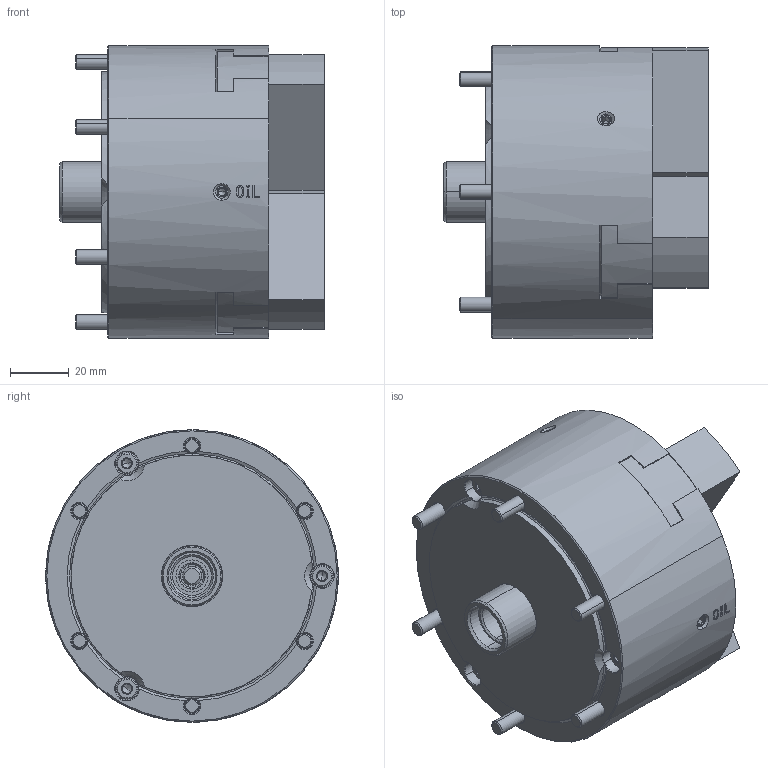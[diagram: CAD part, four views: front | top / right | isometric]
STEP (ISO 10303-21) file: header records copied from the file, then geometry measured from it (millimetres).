
FILE_DESCRIPTION (( 'STEP AP214' ), '1' );
FILE_NAME ('DEV-KPC43C100-OUTSIDE_VIEW_HCL.STEP', '2023-12-20T04:13:32', ( '' ), ( '' ), 'SwSTEP 2.0', 'SolidWorks 2022', '' );
FILE_SCHEMA (( 'AUTOMOTIVE_DESIGN' ));
Length unit declared in the file: millimetre
Products named in the file (7): Copy of 0284210012^DEV-KPC43C100-クミタテ; Copy of 0030105060^DEV-KPC43C100-クミタテ; Part1^DEV-KPC43C100-クミタテ; DEV-KPC43C100-OUTSIDE_VIEW_HCL; Copy of 61P306265^DEV-KPC43C100-クミタテ; Copy of 61P418231^DEV-KPC43C100-クミタテ; Copy of 0030105016^DEV-KPC43C100-クミタテ
Assembly tree (26 placements, depth 2):
  DEV-KPC43C100-OUTSIDE_VIEW_HCL
    Copy of 61P306265^DEV-KPC43C100-クミタテ  x3
    Copy of 61P418231^DEV-KPC43C100-クミタテ
    Copy of 0030105016^DEV-KPC43C100-クミタテ  x6
    Copy of 0284210012^DEV-KPC43C100-クミタテ  x9
    Copy of 0030105060^DEV-KPC43C100-クミタテ  x6
    Part1^DEV-KPC43C100-クミタテ
Bounding box: 90.4 x 100 x 100 mm (x, y, z)
Volume: 483119.2 mm3; surface area: 78803.4 mm2
Topology: 28 solids, 31 shells, 1768 faces, 4401 edges, 2769 vertices
Faces by surface type: plane 763, cone 443, cylinder 350, bspline 180, torus 32
Entity records: 49921 total; most frequent: CARTESIAN_POINT 16448, ORIENTED_EDGE 7122, DIRECTION 6273, EDGE_CURVE 3561, VERTEX_POINT 2281, AXIS2_PLACEMENT_3D 2116, LINE 2041, VECTOR 2041
